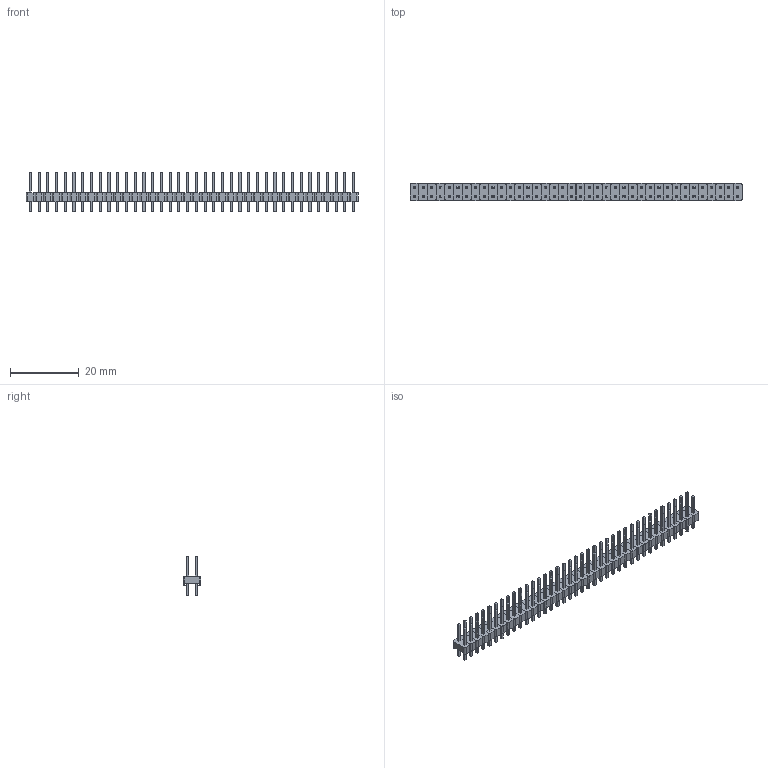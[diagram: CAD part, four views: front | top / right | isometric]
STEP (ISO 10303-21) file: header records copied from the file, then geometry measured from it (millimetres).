
FILE_DESCRIPTION(('FreeCAD Model'),'2;1');
FILE_NAME('Open CASCADE Shape Model','2022-03-28T14:39:21',( 'Engenharia Metaltex'),('Metaltex'), 'Open CASCADE STEP processor 7.5','FreeCAD','Unknown');
FILE_SCHEMA(('AUTOMOTIVE_DESIGN { 1 0 10303 214 1 1 1 1 }'));
Length unit declared in the file: millimetre
Products named in the file (153): BPSC; 38; Base037; Pino076; Pino075; 1; Base; Pino1; Pino2; 2; Base001; Pino003; Pino004; 3; Base002; Pino006; Pino005; 4; Base003; Pino008; Pino007; 5; Base004; Pino009; Pino010; 6; Base005; Pino012; Pino011; 7; Base006; Pino013; Pino014; 8; Base007; Pino015; Pino016; 9; Base008; Pino017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
Assembly tree (152 placements, depth 3):
  BPSC
    38
      Base037
      Pino076
      Pino075
    1
      Base
      Pino1
      Pino2
    2
      Base001
      Pino003
      Pino004
    3
      Base002
      Pino006
      Pino005
    4
      Base003
      Pino008
      Pino007
    5
      Base004
      Pino009
      Pino010
    6
      Base005
      Pino012
      Pino011
    7
      Base006
      Pino013
      Pino014
    8
      Base007
      Pino015
      Pino016
    9
      Base008
      Pino017
      Pino018
    10
      Base009
      Pino019
      Pino020
    11
      Base010
      Pino021
      Pino022
    12
      Base011
      Pino023
      Pino024
    13
      Base012
      Pino025
      Pino026
    14
      Base013
      Pino027
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Bounding box: 96.52 x 5.08 x 11.54 mm (x, y, z)
Volume: 1327 mm3; surface area: 4888 mm2
Topology: 114 solids, 114 shells, 1900 faces, 4408 edges, 2736 vertices
Faces by surface type: plane 1748, cylinder 152
Entity records: 114019 total; most frequent: CARTESIAN_POINT 18925, DIRECTION 17482, LINE 12616, VECTOR 12616, ORIENTED_EDGE 8816, PCURVE 8816, DEFINITIONAL_REPRESENTATION 8816, EDGE_CURVE 4408
